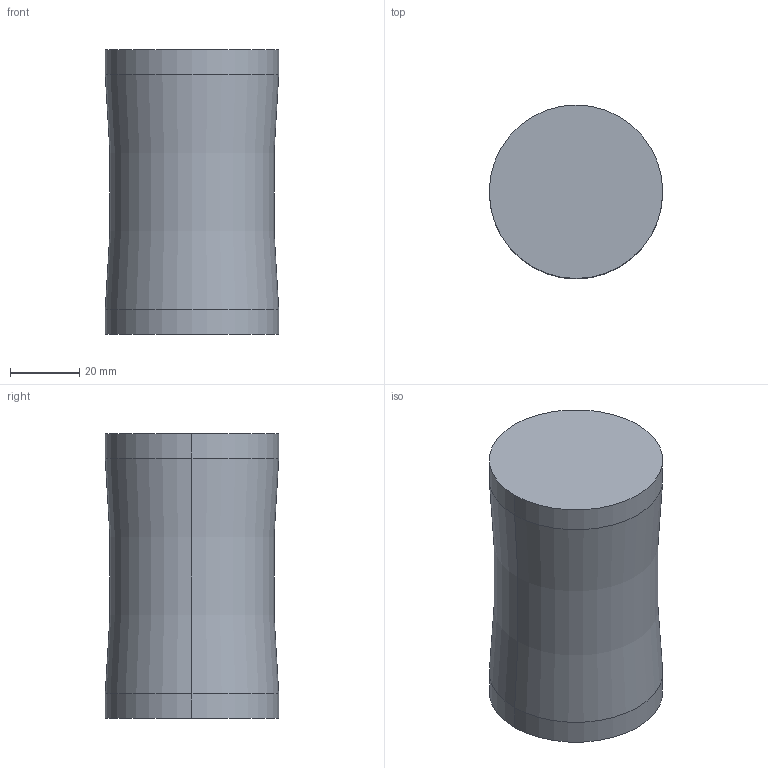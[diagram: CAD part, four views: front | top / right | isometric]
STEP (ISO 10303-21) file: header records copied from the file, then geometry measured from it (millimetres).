
FILE_DESCRIPTION(/* description */ (''),/* implementation_level */ '2;1');
FILE_NAME(/* name */ '3d_ex5080_06509_r00.stp',/* time_stamp */ '2011-01-10T14:15:38+09:00',/* author */ ('MISUMI'),/* organization */ (''),/* preprocessor_version */ 'ST-DEVELOPER v11',/* originating_system */ 'UGS - NX 5.0',/* authorisation */ '');
FILE_SCHEMA (('CONFIG_CONTROL_DESIGN'));
Length unit declared in the file: millimetre
Products named in the file (1): 3d_ex5080_06509_r00
Bounding box: 50 x 50 x 82 mm (x, y, z)
Volume: 150575.3 mm3; surface area: 16393.5 mm2
Topology: 1 solids, 1 shells, 8 faces, 14 edges, 8 vertices
Faces by surface type: cylinder 4, plane 2, torus 2
Entity records: 282 total; most frequent: DIRECTION 42, CARTESIAN_POINT 31, ORIENTED_EDGE 28, AXIS2_PLACEMENT_3D 19, EDGE_CURVE 14, CIRCLE 10, ADVANCED_FACE 8, FACE_OUTER_BOUND 8
